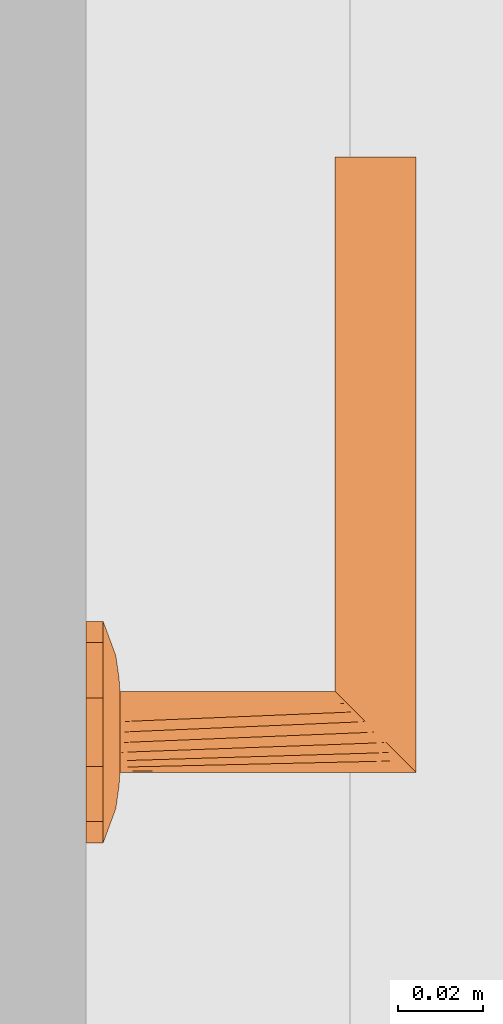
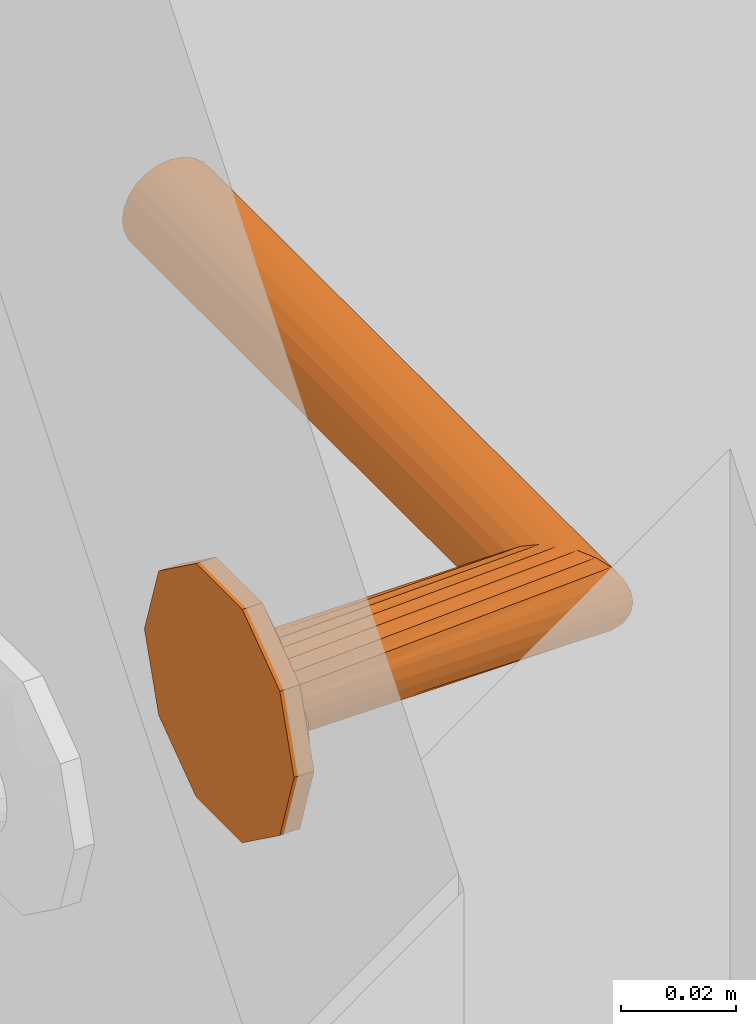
# One storey, part 25 of 55: 1 proxy.
"""IFC2X3 building model written with IfcOpenShell, lengths in millimetres."""

from ifc_helpers import new_model, entity, si_unit, converted_unit, direction, frame, origin, place, context, subcontext, project, spatial, faceted_brep, source, transform, mapped, material, type_object, type_shapes, element, save


model = new_model("IFC2X3")

# Units and contexts
model_context = context("Model", 3, precision=0.01, world=origin(), true_north=direction((6.123233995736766e-17, 1.0)))
plan_context = context("Plan", 3, precision=0.01, world=origin(), true_north=direction((6.123233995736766e-17, 1.0)))
body_context = subcontext(model_context, "Body", "Model", "MODEL_VIEW")
ifc_project = project(units=[si_unit("LENGTHUNIT", "METRE", prefix="MILLI"), converted_unit("PLANEANGLEUNIT", "DEGREE", entity("IfcPlaneAngleMeasure", 0.017453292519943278), si_unit("PLANEANGLEUNIT", "RADIAN"), dimensions=[0, 0, 0, 0, 0, 0, 0]), si_unit("AREAUNIT", "SQUARE_METRE")], contexts=[model_context, plan_context])

# Site, building, storey
site_placement = place(None, origin())
site = spatial("IfcSite", under=ifc_project, at=site_placement, Name="Default", CompositionType="ELEMENT")
building_placement = place(site_placement, origin())
building = spatial("IfcBuilding", under=site, at=building_placement, CompositionType="ELEMENT")
storey_placement = place(building_placement, origin())
storey = spatial("IfcBuildingStorey", under=building, at=storey_placement, Name="1K", CompositionType="ELEMENT", Elevation=0.0)

# Proxy
ifc_material = material(Name="<Unnamed>")
building_element_proxy_type = type_object("IfcBuildingElementProxyType", Name="Door-handle_Lever_ABLOY_INOXI_3-19ss-002_RT:Default", PredefinedType="NOTDEFINED", material=ifc_material)
shared_shape = source(origin(), body_context, "Body", "Brep", [
    faceted_brep([(0.0, 0.0, 0.0), (8.034441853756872, 24.72746942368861, 0.0), (14.534441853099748, 20.00494299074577, 0.0), (21.034441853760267, 15.282416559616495, 0.0), (23.51722092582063, 7.641208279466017, 0.0), (26.0, 0.0, 0.0), (23.517220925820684, -7.641208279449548, 0.0), (0.0, 24.72746942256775, 0.0), (-8.034441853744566, 24.727469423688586, 0.0), (-14.534441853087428, 20.00494299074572, 0.0), (-21.03444185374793, 15.282416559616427, 0.0), (-23.517220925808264, 7.641208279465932, 0.0), (-26.0, 0.0, 0.0), (21.034441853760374, -15.282416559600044, 0.0), (14.534441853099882, -20.004942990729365, 0.0), (8.034441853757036, -24.72746942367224, 0.0), (0.0, -24.72746942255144, 0.0), (-23.517220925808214, -7.641208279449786, 0.0), (-21.034441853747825, -15.282416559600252, 0.0), (-14.53444185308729, -20.004942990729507, 0.0), (-8.0344418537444, -24.72746942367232, 0.0), (0.0, 0.0, 8.0), (9.500000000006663, 0.0, 8.0), (8.312500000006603, 2.056810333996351, 8.0), (7.125000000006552, 4.113620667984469, 8.0), (5.937500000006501, 6.170431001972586, 8.0), (4.7500000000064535, 8.227241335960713, 8.0), (2.375000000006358, 8.2272413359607, 8.0), (0.0, 8.227241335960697, 8.0), (-2.3749999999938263, 8.227241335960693, 8.0), (-4.749999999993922, 8.227241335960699, 8.0), (-5.937499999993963, 6.1704310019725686, 8.0), (-7.124999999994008, 4.1136206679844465, 8.0), (-8.312499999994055, 2.0568103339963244, 8.0), (-9.499999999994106, 0.0, 8.0), (-8.31249999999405, -2.0568103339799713, 8.0), (8.312500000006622, -2.0568103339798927, 8.0), (7.125000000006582, -4.113620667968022, 8.0), (5.937500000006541, -6.170431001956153, 8.0), (4.750000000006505, -8.227241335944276, 8.0), (-7.124999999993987, -4.113620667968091, 8.0), (-5.9374999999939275, -6.17043100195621, 8.0), (-4.74999999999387, -8.227241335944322, 8.0), (-2.374999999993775, -8.227241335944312, 8.0), (0.0, -8.227241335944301, 8.0), (2.3750000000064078, -8.227241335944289, 8.0), (-20.6430713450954, 6.292822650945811, 5.929480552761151), (-16.663919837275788, 7.932665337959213, 6.877259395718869), (-22.48876527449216, 10.806469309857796, 4.030771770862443), (-16.764060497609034, 3.8202578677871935, 7.1747985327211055), (-12.504579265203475, 5.179566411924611, 7.774932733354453), (-11.979136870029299, 13.678312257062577, 6.945778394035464), (-11.963426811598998, 8.62529041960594, 7.618343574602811), (-9.07172672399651, 10.31160661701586, 7.7520782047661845), (8.03444185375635, 24.727469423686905, 4.030771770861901), (0.0, 24.72746942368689, 4.030771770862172), (5.758554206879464, 20.96753300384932, 5.871476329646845), (20.643071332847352, 6.292822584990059, 5.929480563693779), (22.488765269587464, 10.806469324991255, 4.03077177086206), (16.66391982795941, 7.9326653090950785, 6.877259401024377), (9.49943163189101, 18.6436835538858, 6.154325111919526), (14.534441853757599, 20.004942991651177, 4.030771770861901), (-14.534441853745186, 20.00494299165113, 4.030771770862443), (-21.034441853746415, 15.282416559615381, 4.030771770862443), (-15.783149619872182, 11.991003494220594, 6.50080018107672), (-23.943088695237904, 6.330522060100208, 4.030771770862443), (-23.012042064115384, 0.0, 5.135401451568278), (12.50457924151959, 5.179566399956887, 7.774932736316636), (11.963426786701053, 8.625290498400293, 7.618343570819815), (16.76406041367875, 3.820257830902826, 7.17479855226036), (15.783149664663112, 11.991003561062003, 6.50080015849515), (23.01204200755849, 0.0, 5.135401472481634), (17.9853516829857, 0.0, 6.993737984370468), (8.661516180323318, 10.478936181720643, 7.768126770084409), (-3.3573143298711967, 21.197247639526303, 5.971427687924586), (-8.03444185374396, 24.727469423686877, 4.030771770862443), (-7.711266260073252, 12.76034452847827, 7.594456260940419), (-5.97325794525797, 16.43013906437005, 7.110979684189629), (-9.94191586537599, 17.061976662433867, 6.522757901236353), (11.979136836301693, 13.678312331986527, 6.945778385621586), (5.953298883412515, 16.50608604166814, 7.096344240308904), (7.511307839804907, 13.358932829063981, 7.529187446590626), (-1.5654593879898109, 15.307443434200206, 7.519134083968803), (-7.784980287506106, 20.476295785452, 5.812837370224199), (2.8135289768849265, 17.763922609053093, 6.993737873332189), (-17.985351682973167, 0.0, 6.993737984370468), (-26.0, 0.0, 4.030771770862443), (-23.51722092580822, 7.641208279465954, 4.030771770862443), (26.0, 0.0, 4.030771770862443), (24.308823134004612, 5.204907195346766, 4.030771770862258), (23.943088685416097, 6.330522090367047, 4.030771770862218), (21.03444185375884, 15.282416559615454, 4.030771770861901), (22.617646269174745, 10.40981439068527, 4.030771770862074), (20.6430713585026, -6.292822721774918, 5.929480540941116), (16.663919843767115, -7.932665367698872, 6.877259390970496), (22.48876527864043, -10.8064692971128, 4.030771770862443), (16.764060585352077, -3.8202579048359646, 7.174798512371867), (12.504579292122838, -5.17956641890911, 7.774932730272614), (11.979136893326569, -13.678312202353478, 6.9457784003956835), (11.963426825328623, -8.62529034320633, 7.618343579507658), (9.071726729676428, -10.311606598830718, 7.752078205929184), (-8.03444185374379, -24.727469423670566, 4.030771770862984), (0.0, -24.727469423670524, 4.030771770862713), (-5.758554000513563, -20.96753314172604, 5.8714763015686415), (-20.643071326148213, -6.292822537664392, 5.929480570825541), (-22.488765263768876, -10.80646934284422, 4.030771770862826), (-16.66391981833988, -7.932665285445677, 6.877259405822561), (-9.499431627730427, -18.643683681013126, 6.154325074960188), (-14.534441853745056, -20.004942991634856, 4.030771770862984), (14.53444185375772, -20.00494299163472, 4.030771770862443), (21.034441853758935, -15.282416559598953, 4.030771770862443), (15.783149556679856, -11.991003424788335, 6.5008002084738), (23.943088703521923, -6.330522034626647, 4.030771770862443), (-12.504579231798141, -5.17956638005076, 7.77493273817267), (-11.963426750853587, -8.625290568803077, 7.618343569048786), (-16.764060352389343, -3.8202577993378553, 7.174798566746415), (-15.783149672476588, -11.991003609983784, 6.500800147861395), (-8.661516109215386, -10.478936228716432, 7.768126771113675), (3.3573144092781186, -21.197247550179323, 5.971427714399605), (8.034441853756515, -24.727469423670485, 4.030771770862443), (7.711266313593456, -12.760344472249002, 7.5944562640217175), (5.9732581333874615, -16.430139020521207, 7.110979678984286), (9.941915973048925, -17.06197655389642, 6.522757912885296), (-11.979136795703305, -13.678312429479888, 6.945778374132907), (-5.953298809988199, -16.506086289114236, 7.096344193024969), (-7.511307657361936, -13.358932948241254, 7.5291874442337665), (1.5654596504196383, -15.3074431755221, 7.519134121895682), (7.784980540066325, -20.476295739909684, 5.812837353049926), (-2.81352881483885, -17.76392263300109, 6.993737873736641), (23.517220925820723, -7.64120827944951, 4.030771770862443), (-24.308823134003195, -5.20490719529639, 4.030771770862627), (-23.943088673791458, -6.330522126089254, 4.030771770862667), (-21.034441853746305, -15.282416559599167, 4.030771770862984), (-22.617646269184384, -10.409814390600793, 4.0307717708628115)], [[[0, 1, 2]], [[0, 2, 3]], [[0, 3, 4]], [[0, 4, 5]], [[0, 5, 6]], [[0, 7, 1]], [[0, 8, 7]], [[0, 9, 8]], [[0, 10, 9]], [[0, 11, 10]], [[0, 12, 11]], [[0, 6, 13]], [[0, 13, 14]], [[0, 14, 15]], [[0, 15, 16]], [[0, 17, 12]], [[0, 18, 17]], [[0, 19, 18]], [[0, 20, 19]], [[0, 16, 20]], [[21, 22, 23]], [[21, 23, 24]], [[21, 24, 25]], [[21, 25, 26]], [[21, 26, 27]], [[21, 27, 28]], [[21, 28, 29]], [[21, 29, 30]], [[21, 30, 31]], [[21, 31, 32]], [[21, 32, 33]], [[21, 33, 34]], [[21, 34, 35]], [[21, 36, 22]], [[21, 37, 36]], [[21, 38, 37]], [[21, 39, 38]], [[21, 35, 40]], [[21, 40, 41]], [[21, 41, 42]], [[21, 42, 43]], [[21, 43, 44]], [[21, 44, 45]], [[21, 45, 39]], [[46, 47, 48]], [[49, 50, 47]], [[33, 32, 50]], [[51, 52, 53]], [[32, 52, 50]], [[49, 47, 46]], [[54, 55, 56]], [[57, 58, 59]], [[60, 61, 54]], [[62, 63, 64]], [[46, 65, 66]], [[67, 59, 68]], [[23, 69, 67]], [[70, 68, 59]], [[23, 22, 69]], [[52, 51, 64]], [[71, 69, 72]], [[73, 25, 68]], [[74, 55, 75]], [[76, 77, 78]], [[70, 61, 79]], [[71, 57, 69]], [[60, 80, 81]], [[51, 76, 78]], [[77, 29, 82]], [[26, 81, 27]], [[74, 83, 77]], [[77, 82, 74]], [[74, 84, 55]], [[34, 49, 85]], [[23, 67, 24]], [[28, 84, 82]], [[74, 82, 84]], [[29, 76, 30]], [[29, 28, 82]], [[49, 34, 33]], [[47, 50, 52]], [[47, 52, 64]], [[50, 49, 33]], [[53, 76, 51]], [[52, 32, 31]], [[49, 66, 85]], [[86, 66, 65]], [[24, 67, 68]], [[83, 78, 77]], [[49, 46, 66]], [[48, 64, 63]], [[46, 48, 87, 65]], [[48, 47, 64]], [[59, 67, 69]], [[26, 73, 81]], [[79, 68, 70]], [[25, 24, 68]], [[71, 88, 89, 90]], [[22, 72, 69]], [[59, 69, 57]], [[79, 61, 60]], [[51, 62, 64]], [[70, 58, 91]], [[90, 57, 71]], [[58, 70, 59]], [[57, 90, 92]], [[79, 60, 81]], [[61, 70, 91]], [[56, 80, 60]], [[79, 81, 73]], [[80, 84, 27]], [[79, 73, 68]], [[27, 84, 28]], [[25, 73, 26]], [[77, 76, 29]], [[31, 30, 53]], [[78, 62, 51]], [[75, 62, 83]], [[78, 83, 62]], [[75, 83, 74]], [[76, 53, 30]], [[31, 53, 52]], [[81, 80, 27]], [[84, 80, 56]], [[84, 56, 55]], [[54, 56, 60]], [[93, 94, 95]], [[96, 97, 94]], [[36, 37, 97]], [[98, 99, 100]], [[37, 99, 97]], [[96, 94, 93]], [[101, 102, 103]], [[104, 105, 106]], [[107, 108, 101]], [[109, 110, 111]], [[93, 112, 71]], [[113, 106, 114]], [[35, 115, 113]], [[116, 114, 106]], [[35, 34, 115]], [[99, 98, 111]], [[66, 115, 85]], [[117, 41, 114]], [[118, 102, 119]], [[120, 121, 122]], [[116, 108, 123]], [[66, 104, 115]], [[107, 124, 125]], [[120, 45, 121]], [[121, 45, 126]], [[42, 125, 43]], [[118, 127, 121]], [[121, 126, 118]], [[118, 128, 102]], [[22, 96, 72]], [[35, 113, 40]], [[44, 128, 126]], [[118, 126, 128]], [[45, 120, 39]], [[45, 44, 126]], [[96, 22, 36]], [[94, 97, 99]], [[94, 99, 111]], [[97, 96, 36]], [[100, 120, 98]], [[99, 37, 38]], [[96, 71, 72]], [[88, 71, 112]], [[40, 113, 114]], [[127, 122, 121]], [[96, 93, 71]], [[95, 111, 110]], [[93, 95, 129, 112]], [[95, 94, 111]], [[106, 113, 115]], [[42, 117, 125]], [[123, 114, 116]], [[41, 40, 114]], [[66, 86, 130, 131]], [[34, 85, 115]], [[106, 115, 104]], [[123, 108, 107]], [[98, 109, 111]], [[116, 105, 132]], [[131, 104, 66]], [[105, 116, 106]], [[104, 131, 133]], [[123, 107, 125]], [[108, 116, 132]], [[103, 124, 107]], [[123, 125, 117]], [[124, 128, 43]], [[123, 117, 114]], [[43, 128, 44]], [[41, 117, 42]], [[38, 39, 100]], [[98, 120, 122]], [[122, 109, 98]], [[119, 109, 127]], [[122, 127, 109]], [[119, 127, 118]], [[120, 100, 39]], [[38, 100, 99]], [[125, 124, 43]], [[128, 124, 103]], [[128, 103, 102]], [[101, 103, 107]], [[9, 10, 63, 62, 75, 8]], [[11, 12, 86, 65, 87, 48, 63, 10]], [[4, 3, 92, 90, 89, 88, 5]], [[3, 91, 58]], [[55, 54, 1, 7, 8, 75]], [[3, 2, 1, 54, 61, 91]], [[13, 6, 5, 88, 112, 129, 95, 110]], [[119, 15, 14, 13, 110, 109]], [[17, 18, 133, 131, 130, 86, 12]], [[18, 132, 105]], [[102, 101, 20, 16, 15, 119]], [[18, 19, 20, 101, 108, 132]], [[57, 92, 58]], [[104, 133, 105]], [[3, 58, 92]], [[18, 105, 133]]]),
    faceted_brep([(0.0, 9.499999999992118, 8.0), (2.4587809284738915, 9.176295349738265, 8.0), (4.7499999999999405, 8.22724133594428, 8.0), (6.717514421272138, 6.7175144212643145, 8.0), (8.227241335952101, 4.749999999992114, 8.0), (9.17629534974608, 2.458780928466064, 8.0), (9.499999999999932, 0.0, 8.0), (9.17629534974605, -2.458780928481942, 8.0), (8.22724133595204, -4.75000000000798, 8.0), (6.717514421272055, -6.717514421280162, 8.0), (4.7499999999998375, -8.227241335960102, 8.0), (2.4587809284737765, -9.176295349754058, 8.0), (0.0, -9.500000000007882, 8.0), (-2.4587809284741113, -9.176295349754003, 8.0), (-4.750000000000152, -8.227241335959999, 8.0), (-6.717514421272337, -6.717514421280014, 8.0), (-8.227241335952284, -4.750000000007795, 8.0), (-9.176295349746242, -2.458780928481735, 8.0), (-9.500000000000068, 0.0, 8.0), (-9.176295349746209, 2.4587809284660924, 8.0), (-8.227241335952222, 4.74999999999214, 8.0), (-6.717514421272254, 6.717514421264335, 8.0), (-4.7500000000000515, 8.227241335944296, 8.0), (-2.4587809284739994, 9.176295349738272, 8.0), (-6.717514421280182, -6.7175144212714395, 61.282485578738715), (-8.227241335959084, -4.7499999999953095, 59.772758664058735), (-9.176295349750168, -2.458780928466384, 58.82370465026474), (-2.4587809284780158, -9.176295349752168, 65.54121907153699), (-4.750000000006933, -8.227241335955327, 63.25000000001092), (-9.500000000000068, 0.0, 58.50000000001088), (0.0, -9.50000000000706, 68.0), (2.4587809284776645, -9.17629534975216, 70.45878092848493), (4.750000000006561, -8.227241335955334, 72.75000000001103), (6.717514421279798, -6.7175144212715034, 74.71751442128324), (9.17629534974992, -2.458780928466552, 77.17629534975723), (8.22724133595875, -4.749999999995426, 76.22724133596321), (9.499999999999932, 0.0, 77.50000000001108), (9.176295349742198, 2.4587809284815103, 77.1762953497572), (8.227241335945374, 4.750000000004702, 76.22724133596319), (4.749999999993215, 8.227241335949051, 72.75000000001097), (6.7175144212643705, 6.717514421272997, 74.7175144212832), (2.4587809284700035, 9.17629534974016, 70.45878092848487), (-2.4587809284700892, 9.176295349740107, 65.54121907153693), (0.0, 9.49999999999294, 68.0), (-6.717514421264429, 6.717514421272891, 61.282485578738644), (-4.749999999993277, 8.227241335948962, 63.250000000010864), (-9.176295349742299, 2.458780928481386, 58.8237046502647), (-8.227241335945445, 4.750000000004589, 59.77275866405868), (-135.0, 9.500000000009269, 68.0), (-135.0, 9.176295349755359, 65.54121907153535), (-135.0, 8.227241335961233, 63.25000000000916), (-135.0, 6.7175144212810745, 61.28248557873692), (-135.0, 4.750000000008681, 59.772758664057), (-135.0, 2.458780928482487, 58.82370465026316), (-135.0, 0.0, 58.50000000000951), (-135.0, -2.458780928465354, 58.823704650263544), (-135.0, -4.749999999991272, 59.772758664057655), (-135.0, -6.717514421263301, 61.28248557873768), (-135.0, -8.227241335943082, 63.250000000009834), (-135.0, -9.17629534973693, 65.54121907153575), (-135.0, -9.499999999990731, 68.0), (-135.0, -9.17629534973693, 70.45878092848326), (-135.0, -8.227241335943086, 72.75000000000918), (-135.0, -6.717514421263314, 74.71751442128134), (-135.0, -4.749999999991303, 76.22724133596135), (-135.0, -2.4587809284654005, 77.17629534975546), (-135.0, 0.0, 77.5000000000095), (-135.0, 2.4587809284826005, 77.17629534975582), (-135.0, 4.750000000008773, 76.22724133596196), (-135.0, 6.717514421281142, 74.71751442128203), (-135.0, 8.227241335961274, 72.75000000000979), (-135.0, 9.176295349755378, 70.4587809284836)], [[[0, 1, 2, 3, 4, 5, 6, 7, 8, 9, 10, 11, 12, 13, 14, 15, 16, 17, 18, 19, 20, 21, 22, 23]], [[15, 24, 25, 16]], [[16, 25, 26, 17]], [[27, 28, 12]], [[12, 28, 13]], [[13, 28, 24]], [[18, 17, 26, 29]], [[24, 15, 14]], [[14, 13, 24]], [[11, 30, 27]], [[31, 9, 32]], [[32, 8, 33]], [[34, 35, 7]], [[7, 35, 33]], [[36, 34, 7, 6]], [[30, 11, 10]], [[11, 27, 12]], [[33, 8, 7]], [[8, 32, 9]], [[31, 10, 9]], [[10, 31, 30]], [[37, 36, 6, 5]], [[37, 5, 38]], [[39, 40, 4]], [[5, 40, 38]], [[41, 39, 3]], [[5, 4, 40]], [[42, 43, 1]], [[2, 1, 43]], [[2, 41, 3]], [[39, 4, 3]], [[2, 43, 41]], [[23, 44, 45]], [[0, 45, 42]], [[19, 18, 29, 46]], [[20, 19, 46, 47]], [[21, 20, 47, 44]], [[23, 22, 44]], [[45, 0, 23]], [[44, 22, 21]], [[1, 0, 42]], [[48, 49, 50, 51, 52, 53, 54, 55, 56, 57, 58, 59, 60, 61, 62, 63, 64, 65, 66, 67, 68, 69, 70, 71]], [[26, 25, 56, 55]], [[29, 26, 55, 54]], [[28, 27, 59, 58]], [[24, 28, 58, 57]], [[25, 24, 57, 56]], [[27, 30, 60, 59]], [[32, 33, 63, 62]], [[31, 32, 62, 61]], [[34, 36, 66, 65]], [[35, 34, 65, 64]], [[33, 35, 64, 63]], [[61, 60, 30, 31]], [[38, 68, 67, 37]], [[37, 67, 66, 36]], [[41, 71, 70, 39]], [[39, 70, 69, 40]], [[40, 69, 68, 38]], [[48, 71, 41, 43]], [[44, 51, 50, 45]], [[45, 50, 49, 42]], [[29, 54, 53, 46]], [[46, 53, 52, 47]], [[47, 52, 51, 44]], [[42, 49, 48, 43]]]),
])
type_shapes(building_element_proxy_type, [shared_shape])
proxy_placement = place(storey_placement, frame((7120.0, 3220.0, 1000.0), z_axis=(1.0, 0.0, 0.0), x_axis=(0.0, -1.0, 0.0)))
element("IfcBuildingElementProxy", 1, at=proxy_placement, inside=storey, type_object=building_element_proxy_type, material=ifc_material, Name="Door-handle_Lever_ABLOY_INOXI_3-19ss-002_RT:Default", ObjectType="Door-handle_Lever_ABLOY_INOXI_3-19ss-002_RT:Default", context=body_context, shape_type="MappedRepresentation", body=[
    mapped(shared_shape, transform((0.0, 0.0, 0.0), scale=1.0)),
])

save(model, "model.ifc")
